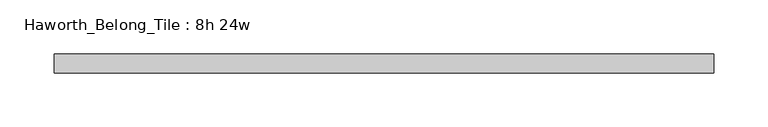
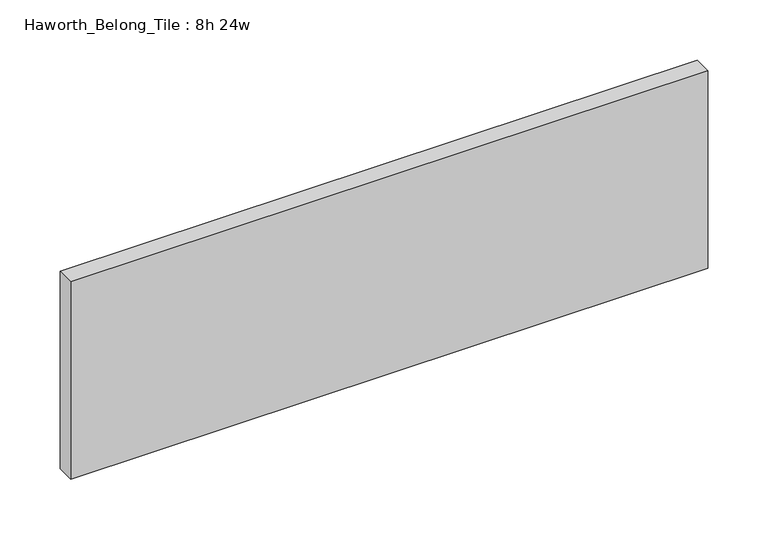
"""IFC4 building model written with IfcOpenShell, lengths in millimetres: furniture geometry, Haworth_Belong_Tile : 8h 24w."""

from ifc_helpers import new_model, si_unit, frame, origin, place, context, project, spatial, polyline, outline, extrude, source, transform, mapped, element, save


def haworth_belong_tile_8h_24w_e348bec2(model_context):
    return source(origin(), model_context, "Body", "SweptSolid", [
        extrude(outline(polyline([(304.8, -8.73125), (-304.8, -8.73125), (-304.8, 8.73125), (304.8, 8.73125), (304.8, -8.73125)])), frame((0.0, 0.0, 812.8), z_axis=(0.0, 0.0, 1.0), x_axis=(1.0, 0.0, 0.0)), (0.0, 0.0, 1.0), 200.025),
    ])


if __name__ == "__main__":
    model = new_model("IFC4")
    model_context = context("Model", 3, world=origin())
    ifc_project = project(units=[si_unit("LENGTHUNIT", "METRE", prefix="MILLI")], contexts=[model_context])
    site = spatial("IfcSite", under=ifc_project)
    building = spatial("IfcBuilding", under=site)
    placement = place(None, origin())
    haworth_belong_tile_8h_24w_shape = haworth_belong_tile_8h_24w_e348bec2(model_context)
    element("IfcFurniture", 1, ObjectType="Haworth_Belong_Tile : 8h 24w", at=placement, inside=building, context=model_context, shape_type="MappedRepresentation", body=[
        mapped(haworth_belong_tile_8h_24w_shape, transform((0.0, 0.0, 0.0), x_axis=(1.0, 0.0, 0.0), y_axis=(0.0, 1.0, 0.0), z_axis=(0.0, 0.0, 1.0))),
    ])
    save(model, "model.ifc")
